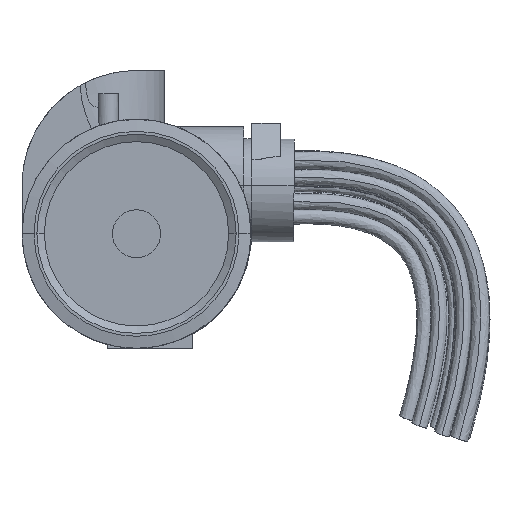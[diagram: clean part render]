
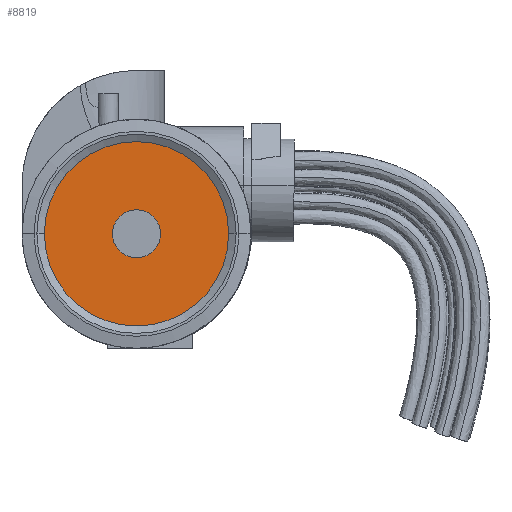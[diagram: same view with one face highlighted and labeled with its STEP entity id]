
A CAD part, left-side view. The second image highlights one B-rep face of the part: STEP entity #8819.
In plain terms, the highlighted planar face has unit normal (-1, 0, 0).
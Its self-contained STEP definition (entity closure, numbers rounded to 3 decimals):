
#84 = EDGE_LOOP ( 'NONE', ( #5874, #5875 ) ) ;
#87 = EDGE_LOOP ( 'NONE', ( #5872, #5873 ) ) ;
#274 = CARTESIAN_POINT ( 'NONE',  ( 1997.5, 80.5, 2125. ) ) ;
#285 = CARTESIAN_POINT ( 'NONE',  ( 1997.5, 21., 2125. ) ) ;
#343 = CARTESIAN_POINT ( 'NONE',  ( 1997.5, -80.5, 2125. ) ) ;
#392 = CARTESIAN_POINT ( 'NONE',  ( 1997.5, -21., 2125. ) ) ;
#1349 = CARTESIAN_POINT ( 'NONE',  ( 1997.5, 0., 2125. ) ) ;
#1352 = PLANE ( 'NONE',  #3380 ) ;
#1354 = DIRECTION ( 'NONE',  ( -1., 0., 0. ) ) ;
#1355 = DIRECTION ( 'NONE',  ( 0., 0.004, -1. ) ) ;
#3322 = AXIS2_PLACEMENT_3D ( 'NONE', #3644, #3645, #3646 ) ;
#3327 = AXIS2_PLACEMENT_3D ( 'NONE', #3699, #3700, #3701 ) ;
#3331 = AXIS2_PLACEMENT_3D ( 'NONE', #3766, #3767, #3768 ) ;
#3332 = AXIS2_PLACEMENT_3D ( 'NONE', #3769, #3770, #3771 ) ;
#3380 = AXIS2_PLACEMENT_3D ( 'NONE', #1349, #1354, #1355 ) ;
#3644 = CARTESIAN_POINT ( 'NONE',  ( 1997.5, 0., 2125. ) ) ;
#3645 = DIRECTION ( 'NONE',  ( -1., 0., 0. ) ) ;
#3646 = DIRECTION ( 'NONE',  ( 0., -1., 0. ) ) ;
#3699 = CARTESIAN_POINT ( 'NONE',  ( 1997.5, 0., 2125. ) ) ;
#3700 = DIRECTION ( 'NONE',  ( -1., 0., 0. ) ) ;
#3701 = DIRECTION ( 'NONE',  ( 0., 0.004, -1. ) ) ;
#3766 = CARTESIAN_POINT ( 'NONE',  ( 1997.5, 0., 2125. ) ) ;
#3767 = DIRECTION ( 'NONE',  ( -1., 0., 0. ) ) ;
#3768 = DIRECTION ( 'NONE',  ( 0., 0.004, -1. ) ) ;
#3769 = CARTESIAN_POINT ( 'NONE',  ( 1997.5, 0., 2125. ) ) ;
#3770 = DIRECTION ( 'NONE',  ( -1., 0., 0. ) ) ;
#3771 = DIRECTION ( 'NONE',  ( 0., -1., 0. ) ) ;
#5872 = ORIENTED_EDGE ( 'NONE', *, *, #8628, .T. ) ;
#5873 = ORIENTED_EDGE ( 'NONE', *, *, #8613, .T. ) ;
#5874 = ORIENTED_EDGE ( 'NONE', *, *, #8600, .F. ) ;
#5875 = ORIENTED_EDGE ( 'NONE', *, *, #8629, .F. ) ;
#6091 = VERTEX_POINT ( 'NONE', #274 ) ;
#6102 = VERTEX_POINT ( 'NONE', #285 ) ;
#6544 = VERTEX_POINT ( 'NONE', #343 ) ;
#6593 = VERTEX_POINT ( 'NONE', #392 ) ;
#7563 = CIRCLE ( 'NONE', #3322, 21. ) ;
#7581 = CIRCLE ( 'NONE', #3327, 80.5 ) ;
#7600 = CIRCLE ( 'NONE', #3331, 80.5 ) ;
#7606 = CIRCLE ( 'NONE', #3332, 21. ) ;
#7675 = FACE_OUTER_BOUND ( 'NONE', #87, .T. ) ;
#7677 = FACE_BOUND ( 'NONE', #84, .T. ) ;
#8600 = EDGE_CURVE ( 'NONE', #6593, #6102, #7563, .T. ) ;
#8613 = EDGE_CURVE ( 'NONE', #6091, #6544, #7581, .T. ) ;
#8628 = EDGE_CURVE ( 'NONE', #6544, #6091, #7600, .T. ) ;
#8629 = EDGE_CURVE ( 'NONE', #6102, #6593, #7606, .T. ) ;
#8819 = ADVANCED_FACE ( 'NONE', ( #7675, #7677 ), #1352, .T. ) ;
